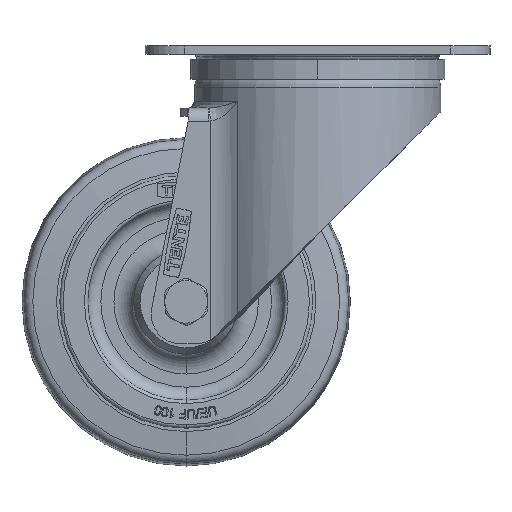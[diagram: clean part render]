
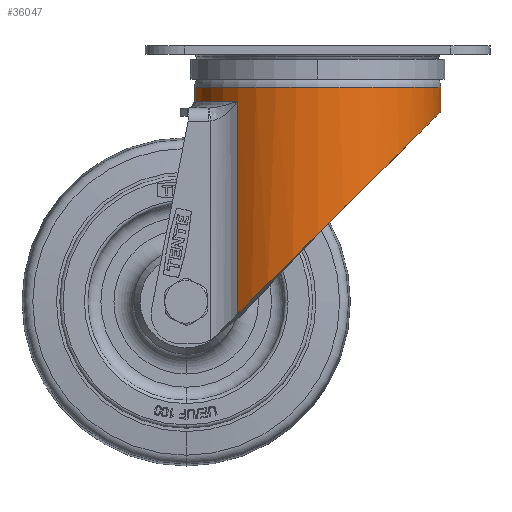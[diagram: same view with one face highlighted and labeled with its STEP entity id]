
A CAD part, front view. The second image highlights one B-rep face of the part: STEP entity #36047.
In plain terms, the highlighted cylindrical face has radius 37.5 mm (diameter 75 mm), a partial arc.
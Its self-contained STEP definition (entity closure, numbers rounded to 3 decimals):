
#618 = CARTESIAN_POINT ( 'NONE',  ( -0.608, -37.495, -47.536 ) ) ;
#1100 = CARTESIAN_POINT ( 'NONE',  ( 3.375, -37.352, -43.572 ) ) ;
#1366 = CARTESIAN_POINT ( 'NONE',  ( 12.034, -35.544, -34.952 ) ) ;
#1628 = CARTESIAN_POINT ( 'NONE',  ( 28.733, -24.19, -18.328 ) ) ;
#3089 = VERTEX_POINT ( 'NONE', #47830 ) ;
#3446 = DIRECTION ( 'NONE',  ( 0., 0., 1. ) ) ;
#3974 = DIRECTION ( 'NONE',  ( 1., 0., 0. ) ) ;
#4475 = CARTESIAN_POINT ( 'NONE',  ( 7.559, -36.741, -39.406 ) ) ;
#4753 = CARTESIAN_POINT ( 'NONE',  ( -16.735, -33.62, -63.591 ) ) ;
#4996 = CARTESIAN_POINT ( 'NONE',  ( 0.265, -37.499, -46.668 ) ) ;
#5289 = ORIENTED_EDGE ( 'NONE', *, *, #6532, .F. ) ;
#5499 = CARTESIAN_POINT ( 'NONE',  ( -1.129, -37.483, -48.055 ) ) ;
#5761 = CARTESIAN_POINT ( 'NONE',  ( -22.955, -29.704, -69.783 ) ) ;
#6532 = EDGE_CURVE ( 'NONE', #31961, #40047, #18538, .T. ) ;
#6808 = DIRECTION ( 'NONE',  ( 1., 0., 0. ) ) ;
#7292 = VECTOR ( 'NONE', #8121, 1000. ) ;
#7966 = AXIS2_PLACEMENT_3D ( 'NONE', #15832, #3446, #3974 ) ;
#8121 = DIRECTION ( 'NONE',  ( 0., 0., 1. ) ) ;
#8607 = CARTESIAN_POINT ( 'NONE',  ( 0.909, -37.489, -46.027 ) ) ;
#8884 = CARTESIAN_POINT ( 'NONE',  ( 0.002, -37.5, -46.93 ) ) ;
#9361 = CARTESIAN_POINT ( 'NONE',  ( 18.172, -32.892, -28.842 ) ) ;
#9633 = CARTESIAN_POINT ( 'NONE',  ( -24.268, -28.589, -71.09 ) ) ;
#9933 = CYLINDRICAL_SURFACE ( 'NONE', #27414, 37.5 ) ;
#10166 = ORIENTED_EDGE ( 'NONE', *, *, #31077, .T. ) ;
#10224 = CARTESIAN_POINT ( 'NONE',  ( -24.268, -28.589, 0. ) ) ;
#10950 = CARTESIAN_POINT ( 'NONE',  ( 37.5, 0., 0. ) ) ;
#12244 = CARTESIAN_POINT ( 'NONE',  ( -3.117, -37.372, -50.035 ) ) ;
#12486 = CARTESIAN_POINT ( 'NONE',  ( 0.09, -37.5, -46.842 ) ) ;
#12557 = ORIENTED_EDGE ( 'NONE', *, *, #17356, .T. ) ;
#12726 = CARTESIAN_POINT ( 'NONE',  ( 8.359, -36.565, -38.61 ) ) ;
#12999 = CARTESIAN_POINT ( 'NONE',  ( 0.571, -37.496, -46.363 ) ) ;
#13095 = DIRECTION ( 'NONE',  ( 0., 0., 1. ) ) ;
#13242 = CARTESIAN_POINT ( 'NONE',  ( 24.048, -28.861, -22.992 ) ) ;
#15832 = CARTESIAN_POINT ( 'NONE',  ( 0., 0., -2.2 ) ) ;
#16381 = CARTESIAN_POINT ( 'NONE',  ( -8.023, -36.637, -54.919 ) ) ;
#16861 = CARTESIAN_POINT ( 'NONE',  ( -0.654, -37.494, -47.582 ) ) ;
#17356 = EDGE_CURVE ( 'NONE', #32844, #28216, #46845, .T. ) ;
#17385 = CARTESIAN_POINT ( 'NONE',  ( 22.239, -30.29, -24.792 ) ) ;
#17473 = CARTESIAN_POINT ( 'NONE',  ( 0., 0., -6.5 ) ) ;
#18166 = CARTESIAN_POINT ( 'NONE',  ( -21.529, -30.759, -68.364 ) ) ;
#18538 = B_SPLINE_CURVE_WITH_KNOTS ( 'NONE', 3,
 ( #48171, #20762, #20996, #48696, #36794, #1628, #36550, #13242, #17385, #9361, #32401, #1366, #24888, #12726, #4475, #21271, #32170, #1100, #20250, #24651, #28527, #40676, #8607, #44580, #12999, #32921, #4996, #12486, #8884, #36041, #43812, #29039, #28278, #618, #16861, #44810, #44313, #5499, #25132, #44049, #40451, #24375, #12244, #37070, #24131, #32650, #33158, #39916, #16381, #20532, #40184, #4753, #36315, #18166, #5761, #9633 ),
 .UNSPECIFIED., .F., .F.,
 ( 4, 2, 2, 2, 2, 2, 2, 2, 2, 2, 2, 2, 2, 2, 2, 2, 2, 2, 2, 2, 2, 2, 2, 2, 2, 2, 2, 4 ),
 ( 0., 0.125, 0.25, 0.313, 0.375, 0.438, 0.469, 0.484, 0.5, 0.508, 0.512, 0.513, 0.514, 0.514, 0.515, 0.516, 0.517, 0.518, 0.52, 0.523, 0.531, 0.547, 0.563, 0.594, 0.625, 0.75, 0.875, 1. ),
 .UNSPECIFIED. ) ;
#19022 = VECTOR ( 'NONE', #22138, 1000. ) ;
#20205 = DIRECTION ( 'NONE',  ( 0., 0., 1. ) ) ;
#20250 = CARTESIAN_POINT ( 'NONE',  ( 2.823, -37.399, -44.121 ) ) ;
#20532 = CARTESIAN_POINT ( 'NONE',  ( -10.98, -35.939, -57.862 ) ) ;
#20762 = CARTESIAN_POINT ( 'NONE',  ( 37.5, -3.927, -9.6 ) ) ;
#20996 = CARTESIAN_POINT ( 'NONE',  ( 36.885, -7.854, -10.212 ) ) ;
#21271 = CARTESIAN_POINT ( 'NONE',  ( 5.846, -37.052, -41.112 ) ) ;
#22138 = DIRECTION ( 'NONE',  ( 0., 0., -1. ) ) ;
#24131 = CARTESIAN_POINT ( 'NONE',  ( -4.32, -37.252, -51.232 ) ) ;
#24375 = CARTESIAN_POINT ( 'NONE',  ( -2.689, -37.407, -49.609 ) ) ;
#24651 = CARTESIAN_POINT ( 'NONE',  ( 1.868, -37.455, -45.071 ) ) ;
#24888 = CARTESIAN_POINT ( 'NONE',  ( 10.655, -35.989, -36.324 ) ) ;
#25079 = EDGE_CURVE ( 'NONE', #3089, #27262, #31074, .T. ) ;
#25132 = CARTESIAN_POINT ( 'NONE',  ( -1.285, -37.478, -48.211 ) ) ;
#25711 = DIRECTION ( 'NONE',  ( 0., 0., 1. ) ) ;
#26226 = FACE_OUTER_BOUND ( 'NONE', #28735, .T. ) ;
#27262 = VERTEX_POINT ( 'NONE', #38960 ) ;
#27414 = AXIS2_PLACEMENT_3D ( 'NONE', #46381, #25711, #6808 ) ;
#27554 = EDGE_CURVE ( 'NONE', #32844, #3089, #44267, .T. ) ;
#28216 = VERTEX_POINT ( 'NONE', #30189 ) ;
#28278 = CARTESIAN_POINT ( 'NONE',  ( -0.514, -37.497, -47.443 ) ) ;
#28392 = ORIENTED_EDGE ( 'NONE', *, *, #25079, .F. ) ;
#28527 = CARTESIAN_POINT ( 'NONE',  ( 1.528, -37.471, -45.41 ) ) ;
#28735 = EDGE_LOOP ( 'NONE', ( #47555, #12557, #10166, #5289, #41913, #28392 ) ) ;
#29039 = CARTESIAN_POINT ( 'NONE',  ( -0.479, -37.497, -47.409 ) ) ;
#29467 = VECTOR ( 'NONE', #20205, 1000. ) ;
#30189 = CARTESIAN_POINT ( 'NONE',  ( -24.268, -28.589, -6.5 ) ) ;
#31074 = CIRCLE ( 'NONE', #7966, 37.5 ) ;
#31077 = EDGE_CURVE ( 'NONE', #28216, #40047, #41803, .T. ) ;
#31165 = AXIS2_PLACEMENT_3D ( 'NONE', #17473, #13095, #36898 ) ;
#31961 = VERTEX_POINT ( 'NONE', #45303 ) ;
#32170 = CARTESIAN_POINT ( 'NONE',  ( 4.938, -37.188, -42.015 ) ) ;
#32401 = CARTESIAN_POINT ( 'NONE',  ( 15.925, -34.064, -31.078 ) ) ;
#32650 = CARTESIAN_POINT ( 'NONE',  ( -5.431, -37.112, -52.338 ) ) ;
#32844 = VERTEX_POINT ( 'NONE', #39103 ) ;
#32921 = CARTESIAN_POINT ( 'NONE',  ( 0.346, -37.498, -46.587 ) ) ;
#33158 = CARTESIAN_POINT ( 'NONE',  ( -6.111, -37.005, -53.015 ) ) ;
#35268 = LINE ( 'NONE', #10950, #7292 ) ;
#36041 = CARTESIAN_POINT ( 'NONE',  ( -0.222, -37.5, -47.152 ) ) ;
#36047 = ADVANCED_FACE ( 'NONE', ( #26226 ), #9933, .T. ) ;
#36315 = CARTESIAN_POINT ( 'NONE',  ( -18.42, -32.716, -65.268 ) ) ;
#36550 = CARTESIAN_POINT ( 'NONE',  ( 27.295, -25.811, -19.759 ) ) ;
#36794 = CARTESIAN_POINT ( 'NONE',  ( 32.54, -19.113, -14.538 ) ) ;
#36898 = DIRECTION ( 'NONE',  ( 1., 0., 0. ) ) ;
#37070 = CARTESIAN_POINT ( 'NONE',  ( -3.937, -37.295, -50.851 ) ) ;
#38102 = CARTESIAN_POINT ( 'NONE',  ( -24.268, -28.589, -71.09 ) ) ;
#38960 = CARTESIAN_POINT ( 'NONE',  ( 37.5, 0., -2.2 ) ) ;
#39103 = CARTESIAN_POINT ( 'NONE',  ( -37.5, 0., -6.5 ) ) ;
#39916 = CARTESIAN_POINT ( 'NONE',  ( -7.408, -36.767, -54.306 ) ) ;
#40047 = VERTEX_POINT ( 'NONE', #38102 ) ;
#40184 = CARTESIAN_POINT ( 'NONE',  ( -13.009, -35.23, -59.882 ) ) ;
#40451 = CARTESIAN_POINT ( 'NONE',  ( -1.962, -37.449, -48.884 ) ) ;
#40676 = CARTESIAN_POINT ( 'NONE',  ( 1.015, -37.486, -45.921 ) ) ;
#41803 = LINE ( 'NONE', #10224, #19022 ) ;
#41913 = ORIENTED_EDGE ( 'NONE', *, *, #42997, .T. ) ;
#42997 = EDGE_CURVE ( 'NONE', #31961, #27262, #35268, .T. ) ;
#43771 = CARTESIAN_POINT ( 'NONE',  ( -37.5, 0., 0. ) ) ;
#43812 = CARTESIAN_POINT ( 'NONE',  ( -0.333, -37.499, -47.263 ) ) ;
#44049 = CARTESIAN_POINT ( 'NONE',  ( -1.718, -37.462, -48.641 ) ) ;
#44267 = LINE ( 'NONE', #43771, #29467 ) ;
#44313 = CARTESIAN_POINT ( 'NONE',  ( -0.876, -37.49, -47.804 ) ) ;
#44580 = CARTESIAN_POINT ( 'NONE',  ( 0.689, -37.494, -46.246 ) ) ;
#44810 = CARTESIAN_POINT ( 'NONE',  ( -0.789, -37.492, -47.717 ) ) ;
#45303 = CARTESIAN_POINT ( 'NONE',  ( 37.5, 0., -9.6 ) ) ;
#46381 = CARTESIAN_POINT ( 'NONE',  ( 0., 0., 0. ) ) ;
#46845 = CIRCLE ( 'NONE', #31165, 37.5 ) ;
#47555 = ORIENTED_EDGE ( 'NONE', *, *, #27554, .F. ) ;
#47830 = CARTESIAN_POINT ( 'NONE',  ( -37.5, 0., -2.2 ) ) ;
#48171 = CARTESIAN_POINT ( 'NONE',  ( 37.5, 0., -9.6 ) ) ;
#48696 = CARTESIAN_POINT ( 'NONE',  ( 34.404, -15.447, -12.683 ) ) ;
